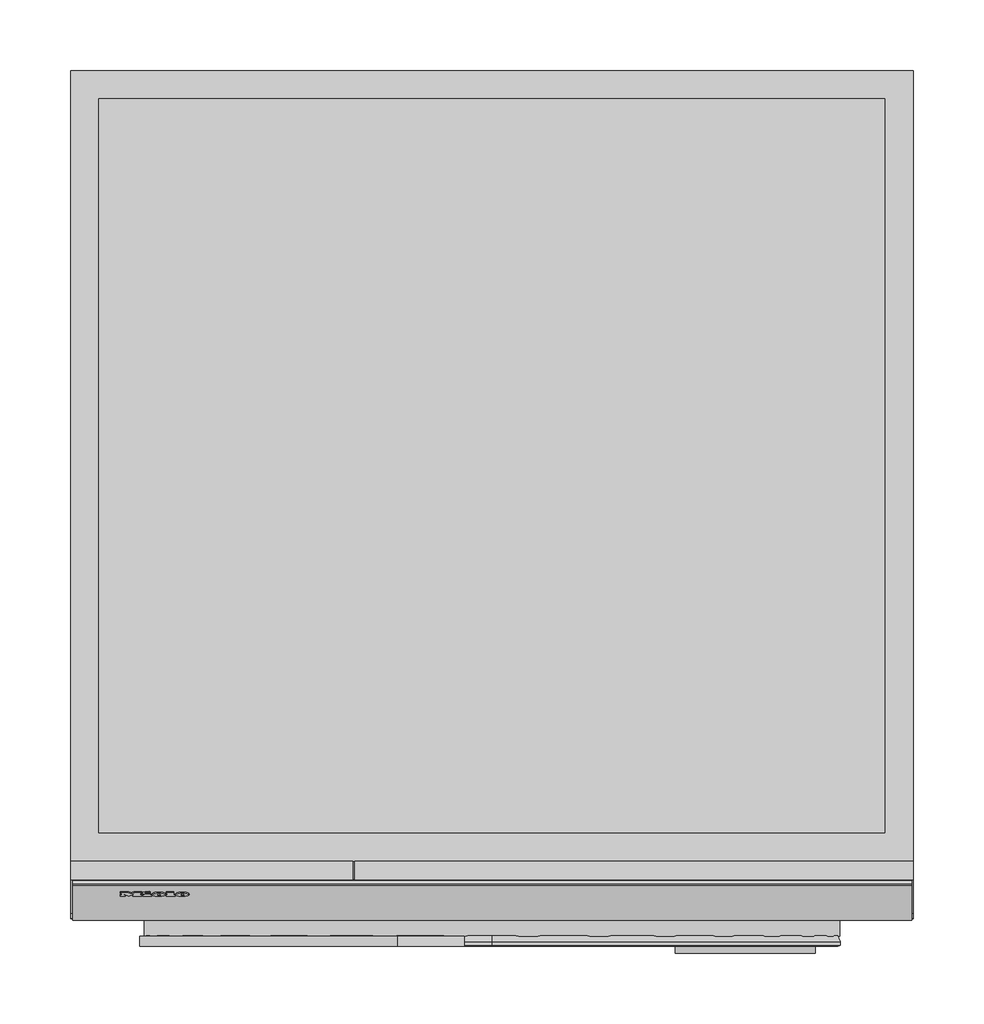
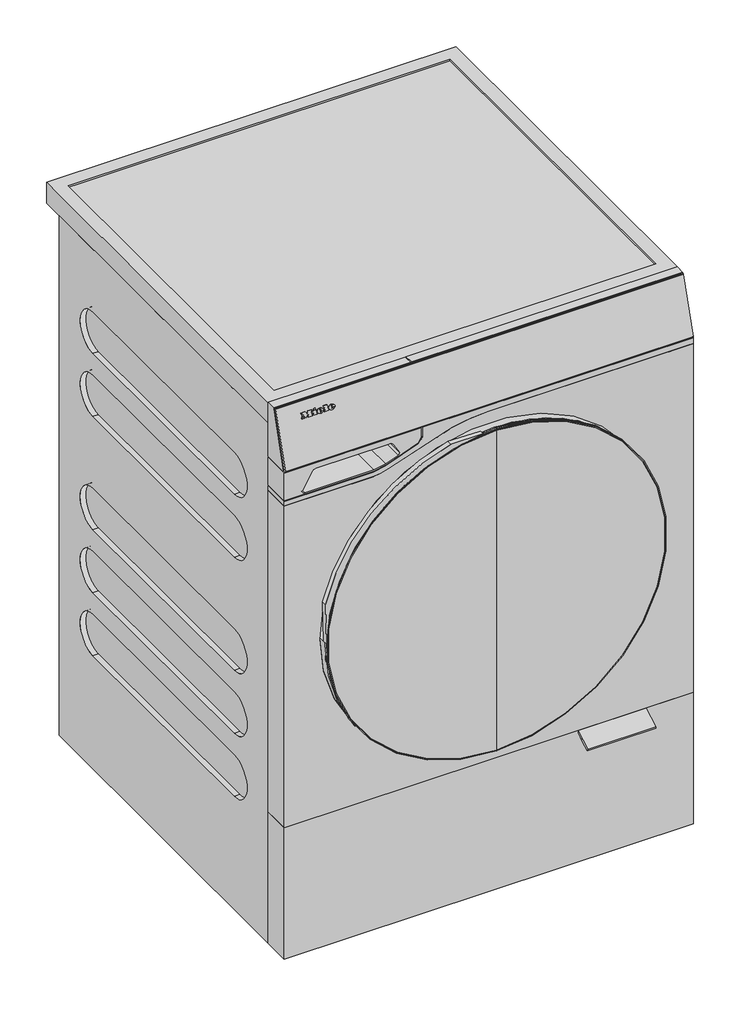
# Not in any storey: 1 proxy.
"""IFC4 building model written with IfcOpenShell, lengths in millimetres."""

from ifc_helpers import new_model, si_unit, origin, place, context, project, spatial, transform, mapped, element, save
from components import specialty_equipment_7e1ea05f, specialty_equipment_b4e01714

model = new_model("IFC4")

# Units and contexts
model_context = context("Model", 3, world=origin())
ifc_project = project(units=[si_unit("LENGTHUNIT", "METRE", prefix="MILLI")], contexts=[model_context])

# Site, building
site = spatial("IfcSite", under=ifc_project)
building = spatial("IfcBuilding", under=site)

# Proxy
placement = place(None, origin())
specialty_equipment_shape = specialty_equipment_7e1ea05f(model_context)
specialty_equipment_2_shape = specialty_equipment_b4e01714(model_context)
element("IfcBuildingElementProxy", 1, Name="12698670_D_WQ1000WPS_LW : 11Q10002_D_12698670_WQ1000WPS_LW", ObjectType="12698670_D_WQ1000WPS_LW : 11Q10002_D_12698670_WQ1000WPS_LW", at=placement, inside=building, context=model_context, shape_type="MappedRepresentation", body=[
    mapped(specialty_equipment_shape, transform((0.0, 0.0, 0.0), x_axis=(1.0, 0.0, 0.0), y_axis=(0.0, 1.0, 0.0), z_axis=(0.0, 0.0, 1.0))),
    mapped(specialty_equipment_2_shape, transform((0.0, 0.0, 0.0), x_axis=(1.0, 0.0, 0.0), y_axis=(0.0, 1.0, 0.0), z_axis=(0.0, 0.0, 1.0))),
])

save(model, "model.ifc")
